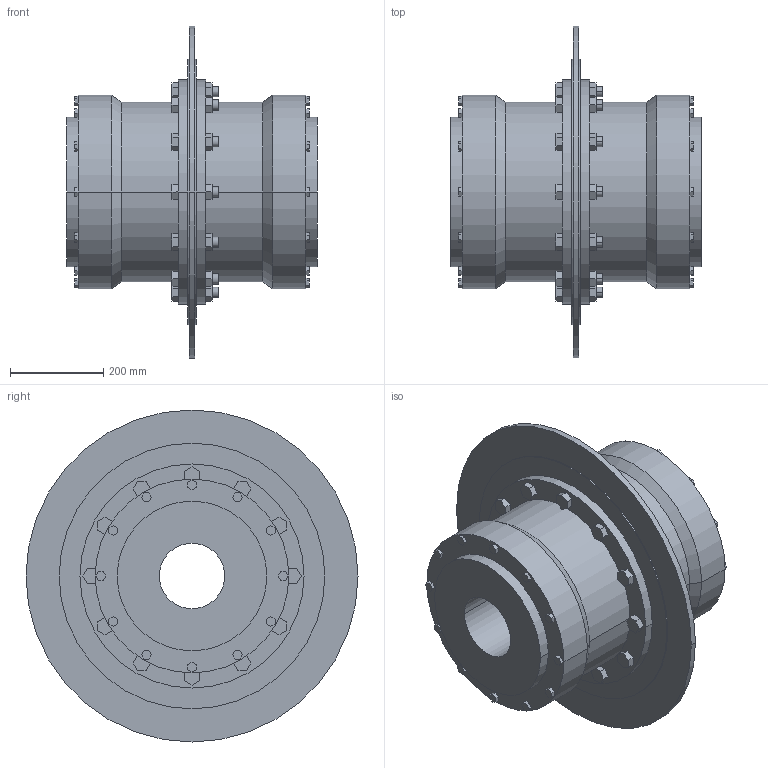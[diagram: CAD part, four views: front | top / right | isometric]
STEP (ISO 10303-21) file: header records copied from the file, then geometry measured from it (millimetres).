
FILE_DESCRIPTION((''),'2;1');
FILE_NAME('A19731000-0_ASM','2019-05-23T',('AB_Roschiwal'),('RENK AG'),'PRO/ENGINEER BY PARAMETRIC TECHNOLOGY CORPORATION, 2015440','PRO/ENGINEER BY PARAMETRIC TECHNOLOGY CORPORATION, 2015440','');
FILE_SCHEMA(('CONFIG_CONTROL_DESIGN'));
Length unit declared in the file: millimetre
Products named in the file (4): SBKT200_GEHAEUSE; SBKT200_NABE; SBKT200_BREMSSCHEIBE; A19731000-0_ASM
Assembly tree (4 placements, depth 2):
  A19731000-0_ASM
    SBKT200_GEHAEUSE
    SBKT200_NABE  x2
    SBKT200_BREMSSCHEIBE
Bounding box: 536 x 711 x 711 mm (x, y, z)
Volume: 55435493.4 mm3; surface area: 3298920.4 mm2
Topology: 4 solids, 4 shells, 470 faces, 1156 edges, 768 vertices
Faces by surface type: plane 370, cylinder 96, cone 4
Entity records: 13604 total; most frequent: CARTESIAN_POINT 2350, ORIENTED_EDGE 2264, DIRECTION 2240, EDGE_CURVE 1132, VECTOR 956, LINE 956, VERTEX_POINT 752, AXIS2_PLACEMENT_3D 642
